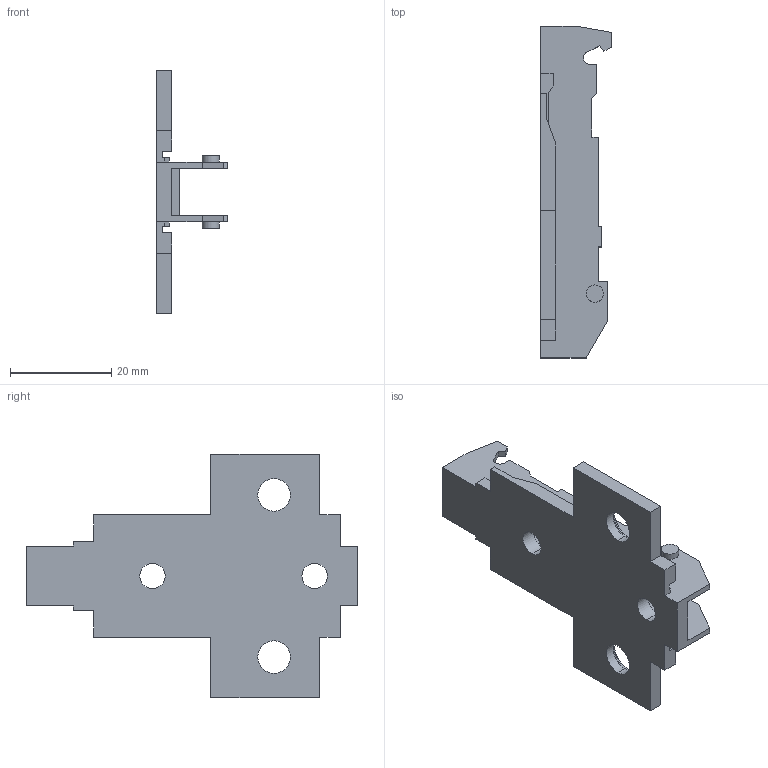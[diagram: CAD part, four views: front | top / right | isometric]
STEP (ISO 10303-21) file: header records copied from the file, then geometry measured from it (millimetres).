
FILE_DESCRIPTION (( 'STEP AP214' ), '1' );
FILE_NAME ('1D_Kreuzmontageplatte 28_32 Euro_3,5.step', '2010-11-18T10:18:49', ( 'grass' ), ( '' ), 'SwSTEP 2.0', 'SolidWorks 2010', '' );
FILE_SCHEMA (( 'AUTOMOTIVE_DESIGN' ));
Length unit declared in the file: millimetre
Products named in the file (1): 1D_Kreuzmontageplatte 28_32 Euro_3,5
Bounding box: 14 x 65.5 x 48 mm (x, y, z)
Volume: 6465.2 mm3; surface area: 7024.9 mm2
Topology: 1 solids, 1 shells, 108 faces, 304 edges, 200 vertices
Faces by surface type: plane 82, cylinder 22, cone 4
Entity records: 3498 total; most frequent: CARTESIAN_POINT 613, ORIENTED_EDGE 608, DIRECTION 566, EDGE_CURVE 304, LINE 260, VECTOR 260, VERTEX_POINT 200, AXIS2_PLACEMENT_3D 153
